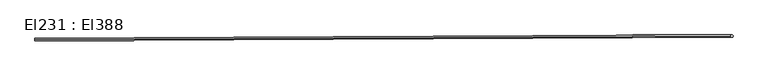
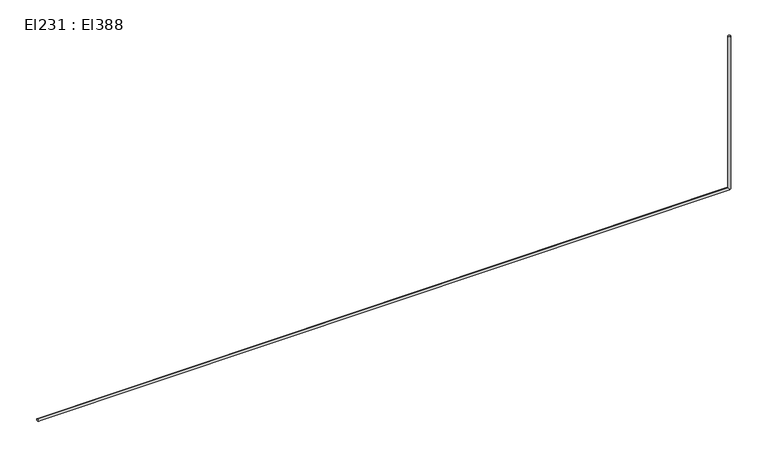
"""IFC4 building model written with IfcOpenShell, lengths in millimetres: cable carrier segment geometry, El231 : El388."""

from ifc_helpers import new_model, si_unit, point, frame, frame_2d, origin, place, context, project, spatial, circle_curve, trimmed, segment, composite_curve, outline, extrude, source, transform, mapped, element, save


def el231_el388_bb1bbab1(model_context):
    return source(origin(), model_context, "Body", "SweptSolid", [
        extrude(outline(composite_curve([segment(trimmed(circle_curve(frame_2d((29275.2346511, 12888.2992745)), 9.5), [point((29265.7346511, 12888.2992745))], [point((29284.7346511, 12888.2992745))], False, "CARTESIAN"), True, "CONTINUOUS"), segment(trimmed(circle_curve(frame_2d((29275.2346511, 12888.2992745)), 9.5), [point((29284.7346511, 12888.2992745))], [point((29265.7346511, 12888.2992745))], False, "CARTESIAN"), True, "CONTINUOUS")], self_intersect=False)), frame((0.0, 0.0, 1500.0), z_axis=(0.0, 0.0, 1.0), x_axis=(1.0, 0.0, 0.0)), (0.0, 0.0, 1.0), 1200.0),
        extrude(outline(composite_curve([segment(trimmed(circle_curve(frame_2d((0.0, -9.5)), 9.5), [point((0.0, -19.0))], [point((0.0, 0.0))], False, "CARTESIAN"), True, "CONTINUOUS"), segment(trimmed(circle_curve(frame_2d((0.0, -9.5)), 9.5), [point((0.0, 0.0))], [point((0.0, -19.0))], False, "CARTESIAN"), True, "CONTINUOUS")], self_intersect=False)), frame((24107.8646511, 12863.9248745, 1509.5), z_axis=(0.9999888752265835, 0.004716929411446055, 0.0), x_axis=(-0.004716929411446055, 0.9999888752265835, 0.0)), (0.0, 0.0, 1.0), 5167.43),
    ])


if __name__ == "__main__":
    model = new_model("IFC4")
    model_context = context("Model", 3, world=origin())
    ifc_project = project(units=[si_unit("LENGTHUNIT", "METRE", prefix="MILLI")], contexts=[model_context])
    site = spatial("IfcSite", under=ifc_project)
    building = spatial("IfcBuilding", under=site)
    placement = place(None, origin())
    el231_el388_shape = el231_el388_bb1bbab1(model_context)
    element("IfcCableCarrierSegment", 1, ObjectType="El231 : El388", at=placement, inside=building, context=model_context, shape_type="MappedRepresentation", body=[
        mapped(el231_el388_shape, transform((0.0, 0.0, 0.0), x_axis=(1.0, 0.0, 0.0), y_axis=(0.0, 1.0, 0.0), z_axis=(0.0, 0.0, 1.0))),
    ])
    save(model, "model.ifc")
